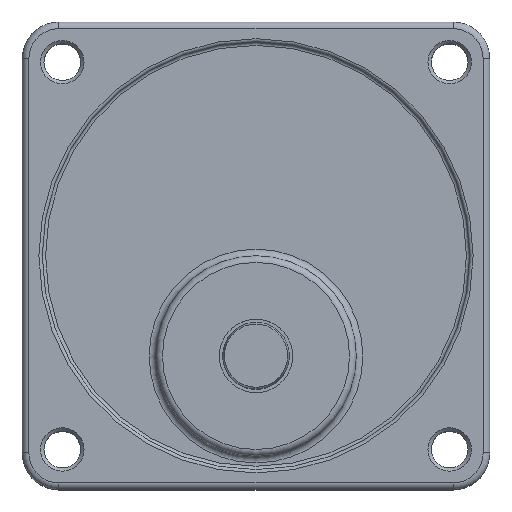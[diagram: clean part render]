
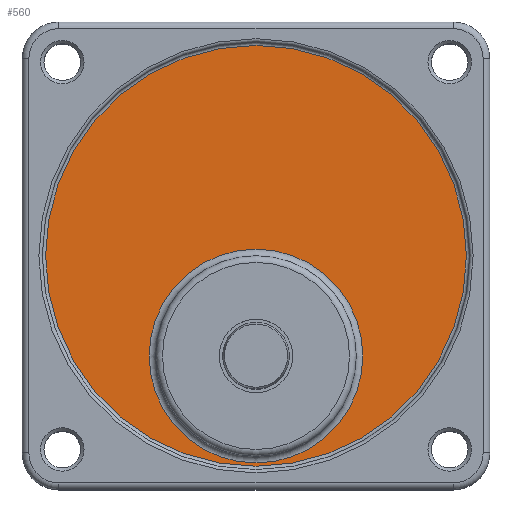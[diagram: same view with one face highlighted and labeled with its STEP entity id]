
A CAD part, top view. The second image highlights one B-rep face of the part: STEP entity #560.
In plain terms, the highlighted planar face has unit normal (0, 0, 1).
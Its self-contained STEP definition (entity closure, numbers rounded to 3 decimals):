
#509=CARTESIAN_POINT('',(51.,20.0,31.0));
#510=VERTEX_POINT('',#509);
#511=CARTESIAN_POINT('',(35.,20.0,31.0));
#512=DIRECTION('',(0.0,0.0,1.0));
#513=DIRECTION('',(-1.0,0.0,0.0));
#514=AXIS2_PLACEMENT_3D('',#511,#512,#513);
#515=CIRCLE('',#514,16.0);
#516=EDGE_CURVE('',#510,#510,#515,.T.);
#541=CARTESIAN_POINT('',(35.,35.0,31.0));
#542=DIRECTION('',(0.0,0.0,-1.0));
#543=DIRECTION('',(-1.0,0.0,0.0));
#544=AXIS2_PLACEMENT_3D('',#541,#542,#543);
#545=PLANE('',#544);
#546=CARTESIAN_POINT('',(66.5,35.,31.0));
#547=VERTEX_POINT('',#546);
#548=CARTESIAN_POINT('',(35.,35.0,31.0));
#549=DIRECTION('',(0.0,0.0,-1.0));
#550=DIRECTION('',(-1.0,0.0,0.0));
#551=AXIS2_PLACEMENT_3D('',#548,#549,#550);
#552=CIRCLE('',#551,31.5);
#553=EDGE_CURVE('',#547,#547,#552,.T.);
#554=ORIENTED_EDGE('',*,*,#553,.F.);
#555=EDGE_LOOP('',(#554));
#556=FACE_OUTER_BOUND('',#555,.T.);
#557=ORIENTED_EDGE('',*,*,#516,.F.);
#558=EDGE_LOOP('',(#557));
#559=FACE_BOUND('',#558,.T.);
#560=ADVANCED_FACE('',(#556,#559),#545,.F.);
